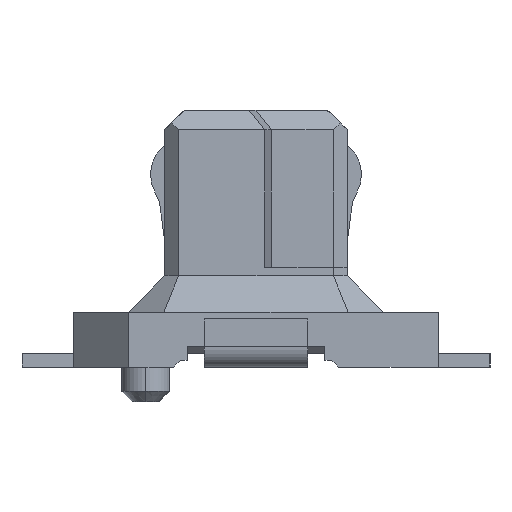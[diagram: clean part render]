
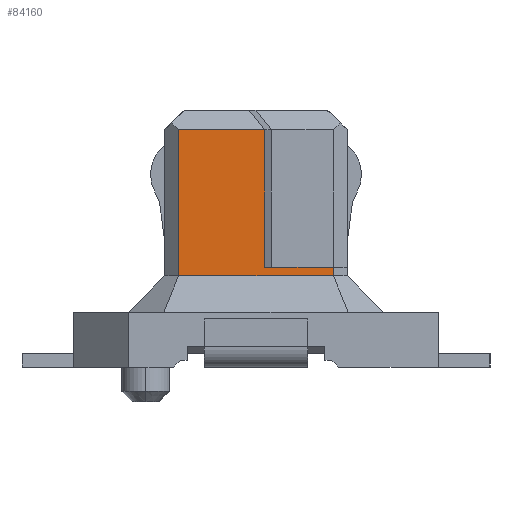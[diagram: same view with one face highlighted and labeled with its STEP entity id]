
A CAD part, left-side view. The second image highlights one B-rep face of the part: STEP entity #84160.
In plain terms, the highlighted planar face has unit normal (-1, 0, 0).
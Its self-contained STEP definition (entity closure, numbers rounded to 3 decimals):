
#59160=CARTESIAN_POINT('',(7.923,-3.166,1.45));
#59170=VERTEX_POINT('',#59160);
#59200=CARTESIAN_POINT('',(7.923,0.,1.45));
#59210=DIRECTION('',(0.,1.,0.));
#59220=VECTOR('',#59210,1.);
#59230=LINE('',#59200,#59220);
#59240=CARTESIAN_POINT('',(7.923,-2.166,1.45));
#59250=VERTEX_POINT('',#59240);
#59260=EDGE_CURVE('',#59170,#59250,#59230,.T.);
#60380=CARTESIAN_POINT('',(7.923,-0.916,3.45));
#60390=VERTEX_POINT('',#60380);
#60420=CARTESIAN_POINT('',(7.923,-0.916,0.8));
#60430=DIRECTION('',(0.,0.,1.));
#60440=VECTOR('',#60430,1.);
#60450=LINE('',#60420,#60440);
#60460=CARTESIAN_POINT('',(7.923,-0.916,1.325));
#60470=VERTEX_POINT('',#60460);
#60480=EDGE_CURVE('',#60470,#60390,#60450,.T.);
#60770=CARTESIAN_POINT('',(7.923,-3.166,1.325));
#60780=VERTEX_POINT('',#60770);
#61090=CARTESIAN_POINT('',(7.923,-2.041,1.325));
#61100=DIRECTION('',(0.,-1.,0.));
#61110=VECTOR('',#61100,1.);
#61120=LINE('',#61090,#61110);
#61130=EDGE_CURVE('',#60470,#60780,#61120,.T.);
#61410=CARTESIAN_POINT('',(7.923,-3.166,0.8));
#61420=DIRECTION('',(0.,0.,1.));
#61430=VECTOR('',#61420,1.);
#61440=LINE('',#61410,#61430);
#61450=EDGE_CURVE('',#60780,#59170,#61440,.T.);
#83910=CARTESIAN_POINT('',(7.923,-2.166,1.35));
#83920=DIRECTION('',(1.,0.,0.));
#83930=DIRECTION('',(0.,-1.,0.));
#83940=AXIS2_PLACEMENT_3D('',#83910,#83920,#83930);
#83950=PLANE('',#83940);
#83960=CARTESIAN_POINT('',(7.923,0.,3.45));
#83970=DIRECTION('',(0.,1.,0.));
#83980=VECTOR('',#83970,1.);
#83990=LINE('',#83960,#83980);
#84000=CARTESIAN_POINT('',(7.923,-2.166,3.45));
#84010=VERTEX_POINT('',#84000);
#84020=EDGE_CURVE('',#84010,#60390,#83990,.T.);
#84030=ORIENTED_EDGE('',*,*,#84020,.T.);
#84040=CARTESIAN_POINT('',(7.923,-2.166,0.));
#84050=DIRECTION('',(0.,0.,-1.));
#84060=VECTOR('',#84050,1.);
#84070=LINE('',#84040,#84060);
#84080=EDGE_CURVE('',#84010,#59250,#84070,.T.);
#84090=ORIENTED_EDGE('',*,*,#84080,.F.);
#84100=ORIENTED_EDGE('',*,*,#59260,.T.);
#84110=ORIENTED_EDGE('',*,*,#61450,.T.);
#84120=ORIENTED_EDGE('',*,*,#61130,.T.);
#84130=ORIENTED_EDGE('',*,*,#60480,.F.);
#84140=EDGE_LOOP('',(#84130,#84120,#84110,#84100,#84090,#84030));
#84150=FACE_OUTER_BOUND('',#84140,.T.);
#84160=ADVANCED_FACE('',(#84150),#83950,.F.);
